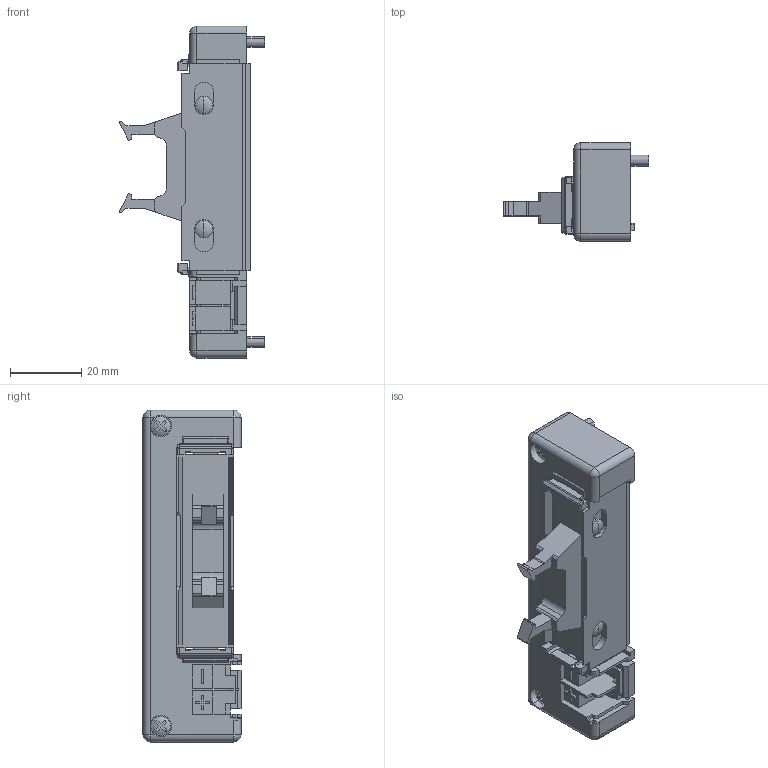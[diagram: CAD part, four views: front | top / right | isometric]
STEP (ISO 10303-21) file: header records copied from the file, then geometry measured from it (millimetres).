
FILE_DESCRIPTION( (''), '2;1');
FILE_NAME ('CVICAD02.288.FZX-F10x-E_11497.stp','2020-08-31T10:46:59',(''),(''),'spGate 12.6.6','','');
FILE_SCHEMA (('AUTOMOTIVE_DESIGN'));
Length unit declared in the file: millimetre
Products named in the file (3): Assembly; CVICAD02-prt0; CVICAD02-prt1
Assembly tree (2 placements, depth 2):
  Assembly
    CVICAD02-prt0
    CVICAD02-prt1
Bounding box: 40.7 x 27.5 x 93 mm (x, y, z)
Volume: 34091.4 mm3; surface area: 14794.3 mm2
Topology: 2 solids, 2 shells, 415 faces, 1206 edges, 778 vertices
Faces by surface type: plane 306, cylinder 84, sphere 20, bspline 5
Entity records: 22900 total; most frequent: CARTESIAN_POINT 2603, ORIENTED_EDGE 2380, DIRECTION 2210, COLOUR_RGB 1607, PRESENTATION_STYLE_ASSIGNMENT 1607, STYLED_ITEM 1607, EDGE_CURVE 1190, DRAUGHTING_PRE_DEFINED_CURVE_FONT 1190
